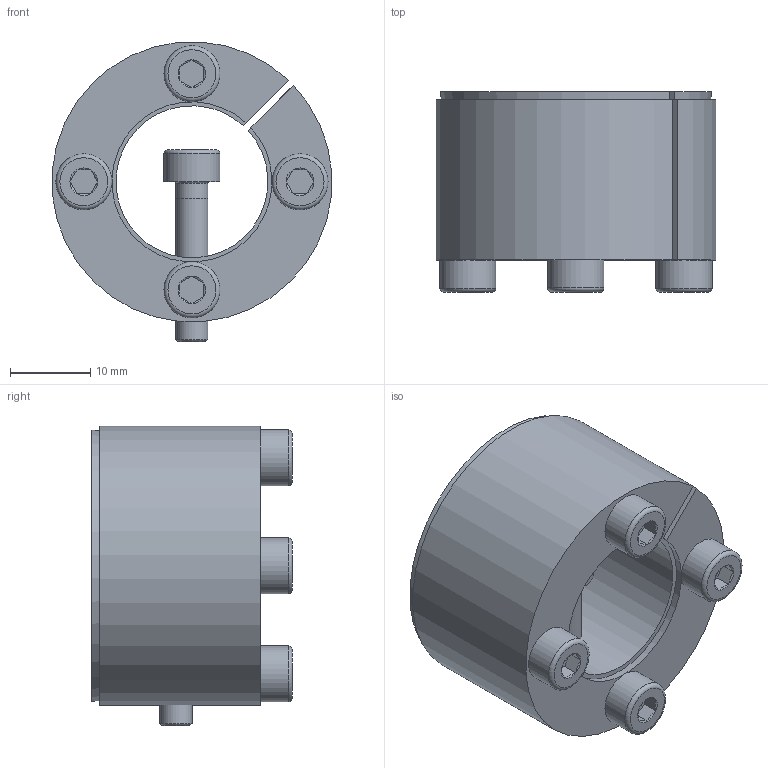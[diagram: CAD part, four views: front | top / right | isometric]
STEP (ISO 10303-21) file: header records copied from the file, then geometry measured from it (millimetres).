
FILE_DESCRIPTION( ( 'Unknown' ), '1' );
FILE_NAME( 'C:/Dokumente und Einstellungen/Sven/Desktop/homepage/cad - homepage/KBS61/KBS 61 - 19 x 35.stp', 'Unknown', ( 'Unknown' ), ( 'Unknown' ), 'XStep 1.0', 'Unknown', ' ' );
FILE_SCHEMA( ( 'automotive_design' ) );
Length unit declared in the file: millimetre
Products named in the file (3): Assem1; KBS 61 - 19 x 35; ISO EN DIN 4762 M4x20
Bounding box: 34.9 x 25 x 37.46 mm (x, y, z)
Volume: 27847.6 mm3; surface area: 14531.9 mm2
Topology: 7 solids, 7 shells, 153 faces, 295 edges, 176 vertices
Faces by surface type: plane 72, cone 39, cylinder 32, torus 10
Full cylindrical faces by diameter (mm): 3.5 x5, 4 x18, 7 x5
Entity records: 1178 total; most frequent: CARTESIAN_POINT 209, DIRECTION 180, ORIENTED_EDGE 134, AXIS2_PLACEMENT_3D 78, EDGE_CURVE 67, EDGE_LOOP 62, FACE_OUTER_BOUND 49, VERTEX_POINT 47
